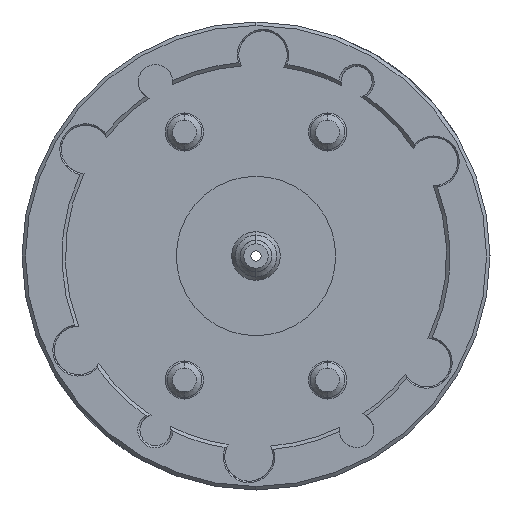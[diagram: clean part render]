
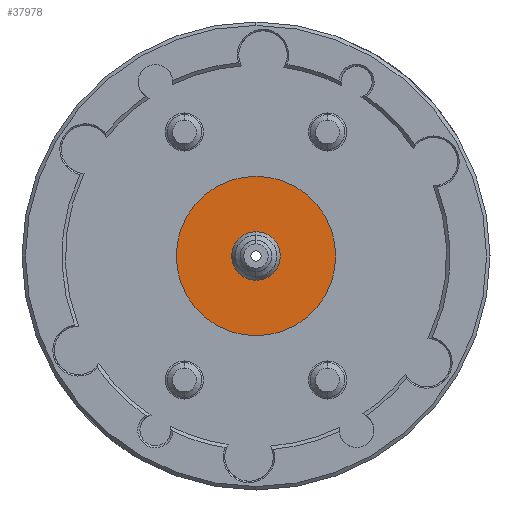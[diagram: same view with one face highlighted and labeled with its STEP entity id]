
A CAD part, left-side view. The second image highlights one B-rep face of the part: STEP entity #37978.
In plain terms, the highlighted planar face has unit normal (-1, 0, 0).
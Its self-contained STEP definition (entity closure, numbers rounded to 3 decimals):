
#984 = VERTEX_POINT ( 'NONE', #34159 ) ;
#1172 = AXIS2_PLACEMENT_3D ( 'NONE', #11630, #37389, #18160 ) ;
#2598 = CARTESIAN_POINT ( 'NONE',  ( -100., 0., 0. ) ) ;
#6020 = DIRECTION ( 'NONE',  ( 0., 0., 1. ) ) ;
#6304 = AXIS2_PLACEMENT_3D ( 'NONE', #29570, #10169, #32813 ) ;
#6547 = VERTEX_POINT ( 'NONE', #35306 ) ;
#8242 = CARTESIAN_POINT ( 'NONE',  ( -100., 0., 0. ) ) ;
#8517 = ORIENTED_EDGE ( 'NONE', *, *, #28020, .T. ) ;
#10064 = FACE_OUTER_BOUND ( 'NONE', #26320, .T. ) ;
#10150 = ORIENTED_EDGE ( 'NONE', *, *, #21327, .F. ) ;
#10169 = DIRECTION ( 'NONE',  ( 1., 0., 0. ) ) ;
#10472 = AXIS2_PLACEMENT_3D ( 'NONE', #13022, #35536, #16287 ) ;
#11581 = DIRECTION ( 'NONE',  ( 0., 0., -1. ) ) ;
#11630 = CARTESIAN_POINT ( 'NONE',  ( -100., 10.046, -2.692 ) ) ;
#11915 = EDGE_CURVE ( 'NONE', #40910, #6547, #36780, .T. ) ;
#12435 = ORIENTED_EDGE ( 'NONE', *, *, #11915, .F. ) ;
#12704 = AXIS2_PLACEMENT_3D ( 'NONE', #8242, #30979, #11581 ) ;
#13022 = CARTESIAN_POINT ( 'NONE',  ( -100., 0., 0. ) ) ;
#16287 = DIRECTION ( 'NONE',  ( 0., 0., 1. ) ) ;
#16605 = CIRCLE ( 'NONE', #37167, 7. ) ;
#17685 = FACE_BOUND ( 'NONE', #28447, .T. ) ;
#18160 = DIRECTION ( 'NONE',  ( 0., 0.259, 0.966 ) ) ;
#19804 = EDGE_CURVE ( 'NONE', #34131, #984, #39181, .T. ) ;
#21196 = CIRCLE ( 'NONE', #12704, 23. ) ;
#21327 = EDGE_CURVE ( 'NONE', #6547, #40910, #21196, .T. ) ;
#23830 = CARTESIAN_POINT ( 'NONE',  ( -100., 0., 7. ) ) ;
#25594 = DIRECTION ( 'NONE',  ( 1., 0., 0. ) ) ;
#26320 = EDGE_LOOP ( 'NONE', ( #12435, #10150 ) ) ;
#28020 = EDGE_CURVE ( 'NONE', #984, #34131, #16605, .T. ) ;
#28447 = EDGE_LOOP ( 'NONE', ( #8517, #31716 ) ) ;
#29570 = CARTESIAN_POINT ( 'NONE',  ( -100., 0., 0. ) ) ;
#30979 = DIRECTION ( 'NONE',  ( 1., 0., 0. ) ) ;
#31716 = ORIENTED_EDGE ( 'NONE', *, *, #19804, .T. ) ;
#32632 = CARTESIAN_POINT ( 'NONE',  ( -100., 0., -23. ) ) ;
#32813 = DIRECTION ( 'NONE',  ( 0., 0., -1. ) ) ;
#34131 = VERTEX_POINT ( 'NONE', #23830 ) ;
#34159 = CARTESIAN_POINT ( 'NONE',  ( -100., 0., -7. ) ) ;
#34199 = PLANE ( 'NONE',  #1172 ) ;
#35306 = CARTESIAN_POINT ( 'NONE',  ( -100., 0., 23. ) ) ;
#35536 = DIRECTION ( 'NONE',  ( 1., 0., 0. ) ) ;
#36780 = CIRCLE ( 'NONE', #6304, 23. ) ;
#37167 = AXIS2_PLACEMENT_3D ( 'NONE', #2598, #25594, #6020 ) ;
#37389 = DIRECTION ( 'NONE',  ( -1., 0., 0. ) ) ;
#37978 = ADVANCED_FACE ( 'NONE', ( #17685, #10064 ), #34199, .T. ) ;
#39181 = CIRCLE ( 'NONE', #10472, 7. ) ;
#40910 = VERTEX_POINT ( 'NONE', #32632 ) ;
